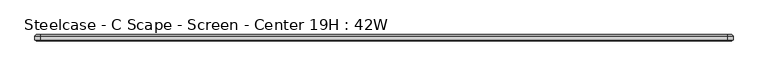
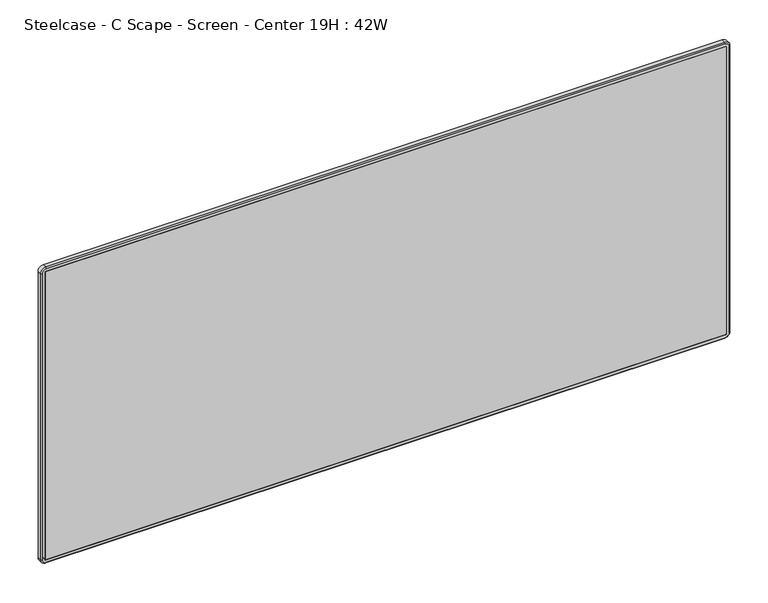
"""IFC4 building model written with IfcOpenShell, lengths in millimetres: furniture geometry, Steelcase - C Scape - Screen - Center 19H : 42W."""

import ifcopenshell
import ifcopenshell.guid

model = None  # the IFC model being written
_history = None  # IfcOwnerHistory: only IFC2X3 demands one
_inside = {}  # id of a spatial element -> (the spatial element, [elements in it])
_under = {}  # id of a project, library or spatial element -> (it, [spatial elements below it])
_declared = {}  # id of a project -> (the project, [libraries it declares])
_typed = {}  # id of a type object -> (the type object, [elements of that type])
_made_of = {}  # id of a material, layer set ... -> (it, [elements and type objects made of it])


def new_model(schema):
    """Start an empty IFC model of exactly this schema.

    Asked for "IFC4X3", IfcOpenShell would pick the latest addendum, in which some entities
    have other attributes; the version numbers below select the first issue.
    IFC2X3 requires an IfcOwnerHistory on every rooted entity: one is made here for all.
    """
    global model, _history
    if schema == "IFC4X3":
        model = ifcopenshell.file(schema_version=(4, 3, 0, 0))
    else:
        model = ifcopenshell.file(schema=schema)
    _inside.clear()
    _under.clear()
    _declared.clear()
    _typed.clear()
    _made_of.clear()
    _history = None
    if model.schema == "IFC2X3":
        org = make("IfcOrganization", Name="unknown")
        user = make(
            "IfcPersonAndOrganization",
            ThePerson=make("IfcPerson", FamilyName="unknown"),
            TheOrganization=org,
        )
        app = make(
            "IfcApplication",
            ApplicationDeveloper=org,
            Version="unknown",
            ApplicationFullName="unknown",
            ApplicationIdentifier="unknown",
        )
        _history = make(
            "IfcOwnerHistory",
            OwningUser=user,
            OwningApplication=app,
            ChangeAction="ADDED",
            CreationDate=0,
        )
    return model


def make(cls, **values):
    """One entity of the class cls with the attributes given. An attribute that is None is left unset."""
    return model.create_entity(
        cls, **{name: value for name, value in values.items() if value is not None}
    )


def rooted(cls, **values):
    """An entity with a GlobalId (a new one), such as an element, a storey or a relation."""
    return make(cls, GlobalId=ifcopenshell.guid.new(), OwnerHistory=_history, **values)


def si_unit(unit_type, name, prefix=None):
    """IfcSIUnit, for example si_unit("LENGTHUNIT", "METRE", prefix="MILLI")."""
    return make("IfcSIUnit", UnitType=unit_type, Prefix=prefix, Name=name)


def assignment(units):
    """IfcUnitAssignment: the units of a project."""
    return None if units is None else make("IfcUnitAssignment", Units=units)


def point(xyz):
    """IfcCartesianPoint."""
    return None if xyz is None else make("IfcCartesianPoint", Coordinates=xyz)


def direction(xyz):
    """IfcDirection."""
    return None if xyz is None else make("IfcDirection", DirectionRatios=xyz)


def frame(location, z_axis=None, x_axis=None):
    """IfcAxis2Placement3D, a coordinate frame: its origin and axes. An axis left out is left unset."""
    return make(
        "IfcAxis2Placement3D",
        Location=point(location),
        Axis=direction(z_axis),
        RefDirection=direction(x_axis),
    )


def origin():
    """The frame at (0, 0, 0) with its axes left unset."""
    return frame((0.0, 0.0, 0.0))


def place(relative_to, where):
    """IfcLocalPlacement: puts the frame where relative to a parent placement (None: the world)."""
    return make(
        "IfcLocalPlacement", PlacementRelTo=relative_to, RelativePlacement=where
    )


def context(
    kind, dimensions, precision=None, world=None, true_north=None, identifier=None
):
    """IfcGeometricRepresentationContext, for example the 3D "Model" context."""
    return make(
        "IfcGeometricRepresentationContext",
        ContextIdentifier=identifier,
        ContextType=kind,
        CoordinateSpaceDimension=dimensions,
        Precision=precision,
        WorldCoordinateSystem=world,
        TrueNorth=true_north,
    )


def project(units=None, contexts=None):
    """IfcProject with its units and contexts."""
    return rooted(
        "IfcProject",
        Name="project",
        RepresentationContexts=contexts,
        UnitsInContext=assignment(units),
    )


def spatial(cls, under=None, at=None, **own):
    """A site, building, storey or space (cls), placed at a placement, below another one or the project."""
    s = rooted(cls, ObjectPlacement=at, **own)
    if under is not None:
        _under.setdefault(under.id(), (under, []))[1].append(s)
    return s


def polyline(points):
    """IfcPolyline through the points."""
    return make("IfcPolyline", Points=[point(p) for p in points])


def circle_curve(where, radius):
    """IfcCircle in the frame where."""
    return make("IfcCircle", Position=where, Radius=radius)


def outline(outer, holes=None, kind="AREA"):
    """IfcArbitraryClosedProfileDef: a profile drawn as a closed curve; with holes, ...WithVoids."""
    if holes is None:
        return make("IfcArbitraryClosedProfileDef", ProfileType=kind, OuterCurve=outer)
    return make(
        "IfcArbitraryProfileDefWithVoids",
        ProfileType=kind,
        OuterCurve=outer,
        InnerCurves=holes,
    )


def extrude(swept, where, along, depth):
    """IfcExtrudedAreaSolid: the profile swept, set in the frame where, extruded along a direction by depth."""
    return make(
        "IfcExtrudedAreaSolid",
        SweptArea=swept,
        Position=where,
        ExtrudedDirection=direction(along),
        Depth=depth,
    )


def shape(context_of_items, identifier, shape_type, items):
    """IfcShapeRepresentation: the items that make up one representation, for example the "Body"."""
    return make(
        "IfcShapeRepresentation",
        ContextOfItems=context_of_items,
        RepresentationIdentifier=identifier,
        RepresentationType=shape_type,
        Items=items,
    )


def source(mapping_origin, context_of_items, identifier, shape_type, items):
    """IfcRepresentationMap: a shape defined once, which mapped items show again and again."""
    return make(
        "IfcRepresentationMap",
        MappingOrigin=mapping_origin,
        MappedRepresentation=shape(context_of_items, identifier, shape_type, items),
    )


def transform(
    local_origin,
    x_axis=None,
    y_axis=None,
    z_axis=None,
    scale=None,
    scale2=None,
    scale3=None,
    uniform=True,
):
    """IfcCartesianTransformationOperator3D, or its non-uniform kind. x_axis, y_axis, z_axis: its Axis1, 2, 3."""
    if uniform:
        return make(
            "IfcCartesianTransformationOperator3D",
            Axis1=direction(x_axis),
            Axis2=direction(y_axis),
            LocalOrigin=point(local_origin),
            Scale=scale,
            Axis3=direction(z_axis),
        )
    return make(
        "IfcCartesianTransformationOperator3DnonUniform",
        Axis1=direction(x_axis),
        Axis2=direction(y_axis),
        LocalOrigin=point(local_origin),
        Scale=scale,
        Axis3=direction(z_axis),
        Scale2=scale2,
        Scale3=scale3,
    )


def mapped(mapping_source, mapping_target):
    """IfcMappedItem: shows the shape of a source again, moved by a transform."""
    return make(
        "IfcMappedItem", MappingSource=mapping_source, MappingTarget=mapping_target
    )


def made_of(thing, what):
    """Note that an element or type object is made of a material, layer set ...; save() writes the relation."""
    if what is not None:
        _made_of.setdefault(what.id(), (what, []))[1].append(thing)
    return thing


def element(
    cls,
    number,
    at=None,
    inside=None,
    cuts=None,
    type_object=None,
    material=None,
    context=None,
    identifier="Body",
    shape_type=None,
    held_by="IfcProductDefinitionShape",
    body=None,
    shapes=None,
    **own,
):
    """One element of the class cls, such as IfcWall. Its Tag is "e" and its number.

    at: its placement. inside: the storey or other place that contains it. cuts: it is an
    opening in that element (IfcRelVoidsElement). A single representation is given by context,
    identifier, shape_type and body (its items); several are given by shapes. held_by: the class
    of the entity that holds the representations. save() writes the other relations.
    """
    e = rooted(cls, Tag="e%d" % number, ObjectPlacement=at, **own)
    if body is not None:
        shapes = [shape(context, identifier, shape_type, body)]
    if shapes is not None:
        e.Representation = make(held_by, Representations=shapes)
    if inside is not None:
        _inside.setdefault(inside.id(), (inside, []))[1].append(e)
    if cuts is not None:
        rooted(
            "IfcRelVoidsElement", RelatingBuildingElement=cuts, RelatedOpeningElement=e
        )
    if type_object is not None:
        _typed.setdefault(type_object.id(), (type_object, []))[1].append(e)
    return made_of(e, material)


def aggregate(whole, parts):
    """IfcRelAggregates: a whole, such as a stair, and the parts it consists of."""
    return rooted("IfcRelAggregates", RelatingObject=whole, RelatedObjects=parts)


def save(model, path):
    """Write the relations noted so far, then the file.

    IfcRelAggregates (storeys below a building ...), IfcRelContainedInSpatialStructure (elements
    in a storey), IfcRelDefinesByType, IfcRelAssociatesMaterial and IfcRelDeclares: one each for
    every whole, place, type object, material and project.
    """
    for whole, parts in _under.values():
        aggregate(whole, parts)
    for where, things in _inside.values():
        rooted(
            "IfcRelContainedInSpatialStructure",
            RelatedElements=things,
            RelatingStructure=where,
        )
    for kind, things in _typed.values():
        rooted("IfcRelDefinesByType", RelatedObjects=things, RelatingType=kind)
    for what, things in _made_of.values():
        rooted("IfcRelAssociatesMaterial", RelatedObjects=things, RelatingMaterial=what)
    for by, libraries in _declared.values():
        rooted("IfcRelDeclares", RelatingContext=by, RelatedDefinitions=libraries)
    model.write(path)


def plane_surface(at):
    """IfcPlane: the flat surface through the origin of the frame at, square to its z axis."""
    return make("IfcPlane", Position=at)


def cylinder_surface(at, radius):
    """IfcCylindricalSurface: all points at the distance radius from the z axis of the frame at."""
    return make("IfcCylindricalSurface", Position=at, Radius=radius)


def revolved_surface(curve, axis_point, axis_direction):
    """IfcSurfaceOfRevolution: the curve turned about the line through axis_point along axis_direction."""
    return make(
        "IfcSurfaceOfRevolution",
        SweptCurve=make("IfcArbitraryOpenProfileDef", ProfileType="CURVE", Curve=curve),
        AxisPosition=make("IfcAxis1Placement", Location=point(axis_point), Axis=direction(axis_direction)),
    )


def advanced_brep(points, edges, surfaces, faces):
    """IfcAdvancedBrep: a solid bounded by faces that lie on surfaces and meet in shared edges.

    An edge is (start, end): straight between two places in points (the first is 0);
    or (start, end, curve); or (start, end, curve, False) where it runs against its curve.
    A face is (place in surfaces, loops), or (place, loops, False) where it looks against
    its surface's normal. A loop lists edges by number (the first is 1), with a minus sign
    where the edge is run from its end to its start. The first loop is the outer one.
    """
    corners = [point(p) for p in points]
    vertices = [make("IfcVertexPoint", VertexGeometry=c) for c in corners]
    made = []
    for start, end, *more in edges:
        made.append(
            make(
                "IfcEdgeCurve",
                EdgeStart=vertices[start],
                EdgeEnd=vertices[end],
                EdgeGeometry=more[0] if more else make("IfcPolyline", Points=[corners[start], corners[end]]),
                SameSense=more[1] if len(more) > 1 else True,
            )
        )
    hull = []
    for where, loops, *sense in faces:
        bounds = []
        for j, loop in enumerate(loops):
            ring = [make("IfcOrientedEdge", EdgeElement=made[abs(k) - 1], Orientation=k > 0) for k in loop]
            bounds.append(
                make(
                    "IfcFaceOuterBound" if j == 0 else "IfcFaceBound",
                    Bound=make("IfcEdgeLoop", EdgeList=ring),
                    Orientation=True,
                )
            )
        hull.append(make("IfcAdvancedFace", Bounds=bounds, FaceSurface=surfaces[where], SameSense=sense[0] if sense else True))
    return make("IfcAdvancedBrep", Outer=make("IfcClosedShell", CfsFaces=hull))


def steelcase_c_scape_screen_center_19h_42w_60bf33ff(model_context):
    return source(origin(), model_context, "Body", "SolidModel", [
        advanced_brep(
        [(6.3501994, -7.9375, 1222.6655677), (8.21859, -7.9375, 1224.5339583), (8.21859, -17.4625, 1224.5339583), (6.3501994, -17.4625, 1222.6655677), (0.0002237, -9.6896209, 1222.6655677), (8.21859, -9.6896209, 1230.8839341), (8.21859, -7.9375, 1229.1318132), (1.7523445, -7.9375, 1222.6655677), (0.0002237, -15.7098203, 1222.6655677), (8.21859, -15.7098203, 1230.8839341), (1.7529034, -17.4625, 1222.6655677), (8.21859, -17.4625, 1229.1312544), (6.3501994, -17.4625, 756.5023005), (6.3501994, -7.9375, 756.5023005), (1.7523445, -7.9375, 756.5023005), (0.0002237, -9.6896209, 756.5023005), (0.0002237, -15.7098203, 756.5023005), (1.7529034, -17.4625, 756.5023005), (8.21859, -7.9375, 754.6339099), (8.21859, -17.4625, 754.6339099), (8.21859, -9.6896209, 748.2839341), (8.21859, -7.9375, 750.036055), (8.21859, -15.7098203, 748.2839341), (8.21859, -17.4625, 750.0366139), (1055.406615, -17.4625, 754.6339099), (1055.406615, -7.9375, 754.6339099), (1055.406615, -7.9375, 750.036055), (1055.406615, -9.6896209, 748.2839341), (1055.406615, -15.7098203, 748.2839341), (1055.406615, -17.4625, 750.0366139), (1057.2750056, -7.9375, 756.5023005), (1057.2750056, -17.4625, 756.5023005), (1063.6249814, -9.6896209, 756.5023005), (1061.8728605, -7.9375, 756.5023005), (1063.6249814, -15.7098203, 756.5023005), (1061.8723017, -17.4625, 756.5023005), (1057.2750056, -17.4625, 1222.6655677), (1057.2750056, -7.9375, 1222.6655677), (1061.8728605, -7.9375, 1222.6655677), (1063.6249814, -9.6896209, 1222.6655677), (1063.6249814, -15.7098203, 1222.6655677), (1061.8723017, -17.4625, 1222.6655677), (1055.406615, -7.9375, 1224.5339583), (1055.406615, -17.4625, 1224.5339583), (1055.406615, -7.9375, 1229.1318132), (1055.406615, -9.6896209, 1230.8839341), (1055.406615, -15.7098203, 1230.8839341), (1055.406615, -17.4625, 1229.1312544)],
        [
            (0, 1, circle_curve(frame((8.21859, -7.9375, 1222.6655677), z_axis=(0.0, 1.0, 0.0), x_axis=(0.0, 0.0, 1.0)), 1.8683906)),
            (1, 2),
            (2, 3, circle_curve(frame((8.21859, -17.4625, 1222.6655677), z_axis=(0.0, -1.0, 0.0), x_axis=(0.0, 0.0, 1.0)), 1.8683906)),
            (3, 0),
            (4, 5, circle_curve(frame((8.21859, -9.6896209, 1222.6655677), z_axis=(0.0, 1.0, 0.0), x_axis=(0.0, 0.0, 1.0)), 8.2183664)),
            (5, 6),
            (6, 7, circle_curve(frame((8.21859, -7.9375, 1222.6655677), z_axis=(0.0, -1.0, 0.0), x_axis=(0.0, 0.0, 1.0)), 6.4662455)),
            (7, 4),
            (8, 9, circle_curve(frame((8.21859, -15.7098203, 1222.6655677), z_axis=(0.0, 1.0, 0.0), x_axis=(0.0, 0.0, 1.0)), 8.2183664)),
            (9, 5),
            (4, 8),
            (10, 11, circle_curve(frame((8.21859, -17.4625, 1222.6655677), z_axis=(0.0, 1.0, 0.0), x_axis=(0.0, 0.0, 1.0)), 6.4656866)),
            (11, 9),
            (8, 10),
            (3, 12),
            (12, 13),
            (13, 0),
            (7, 14),
            (14, 15),
            (15, 4),
            (15, 16),
            (16, 8),
            (16, 17),
            (17, 10),
            (18, 13, circle_curve(frame((8.21859, -7.9375, 756.5023005), z_axis=(0.0, 1.0, 0.0), x_axis=(-1.0, 0.0, 0.0)), 1.8683906)),
            (12, 19, circle_curve(frame((8.21859, -17.4625, 756.5023005), z_axis=(0.0, -1.0, 0.0), x_axis=(-1.0, 0.0, 0.0)), 1.8683906)),
            (19, 18),
            (20, 15, circle_curve(frame((8.21859, -9.6896209, 756.5023005), z_axis=(0.0, 1.0, 0.0), x_axis=(-1.0, 0.0, 0.0)), 8.2183664)),
            (14, 21, circle_curve(frame((8.21859, -7.9375, 756.5023005), z_axis=(0.0, -1.0, 0.0), x_axis=(-1.0, 0.0, 0.0)), 6.4662455)),
            (21, 20),
            (22, 16, circle_curve(frame((8.21859, -15.7098203, 756.5023005), z_axis=(0.0, 1.0, 0.0), x_axis=(-1.0, 0.0, 0.0)), 8.2183664)),
            (20, 22),
            (23, 17, circle_curve(frame((8.21859, -17.4625, 756.5023005), z_axis=(0.0, 1.0, 0.0), x_axis=(-1.0, 0.0, 0.0)), 6.4656866)),
            (22, 23),
            (19, 24),
            (24, 25),
            (25, 18),
            (21, 26),
            (26, 27),
            (27, 20),
            (27, 28),
            (28, 22),
            (28, 29),
            (29, 23),
            (30, 25, circle_curve(frame((1055.406615, -7.9375, 756.5023005), z_axis=(0.0, 1.0, 0.0), x_axis=(0.0, 0.0, -1.0)), 1.8683906)),
            (24, 31, circle_curve(frame((1055.406615, -17.4625, 756.5023005), z_axis=(0.0, -1.0, 0.0), x_axis=(0.0, 0.0, -1.0)), 1.8683906)),
            (31, 30),
            (32, 27, circle_curve(frame((1055.406615, -9.6896209, 756.5023005), z_axis=(0.0, 1.0, 0.0), x_axis=(0.0, 0.0, -1.0)), 8.2183664)),
            (26, 33, circle_curve(frame((1055.406615, -7.9375, 756.5023005), z_axis=(0.0, -1.0, 0.0), x_axis=(0.0, 0.0, -1.0)), 6.4662455)),
            (33, 32),
            (34, 28, circle_curve(frame((1055.406615, -15.7098203, 756.5023005), z_axis=(0.0, 1.0, 0.0), x_axis=(0.0, 0.0, -1.0)), 8.2183664)),
            (32, 34),
            (35, 29, circle_curve(frame((1055.406615, -17.4625, 756.5023005), z_axis=(0.0, 1.0, 0.0), x_axis=(0.0, 0.0, -1.0)), 6.4656866)),
            (34, 35),
            (31, 36),
            (36, 37),
            (37, 30),
            (33, 38),
            (38, 39),
            (39, 32),
            (39, 40),
            (40, 34),
            (40, 41),
            (41, 35),
            (42, 37, circle_curve(frame((1055.406615, -7.9375, 1222.6655677), z_axis=(0.0, 1.0, 0.0), x_axis=(1.0, 0.0, 0.0)), 1.8683906)),
            (36, 43, circle_curve(frame((1055.406615, -17.4625, 1222.6655677), z_axis=(0.0, -1.0, 0.0), x_axis=(1.0, 0.0, 0.0)), 1.8683906)),
            (43, 42),
            (44, 38, circle_curve(frame((1055.406615, -7.9375, 1222.6655677), z_axis=(0.0, 1.0, 0.0), x_axis=(1.0, 0.0, 0.0)), 6.4662455)),
            (6, 44),
            (42, 1),
            (45, 39, circle_curve(frame((1055.406615, -9.6896209, 1222.6655677), z_axis=(0.0, 1.0, 0.0), x_axis=(1.0, 0.0, 0.0)), 8.2183664)),
            (44, 45),
            (46, 40, circle_curve(frame((1055.406615, -15.7098203, 1222.6655677), z_axis=(0.0, 1.0, 0.0), x_axis=(1.0, 0.0, 0.0)), 8.2183664)),
            (45, 46),
            (47, 41, circle_curve(frame((1055.406615, -17.4625, 1222.6655677), z_axis=(0.0, 1.0, 0.0), x_axis=(1.0, 0.0, 0.0)), 6.4656866)),
            (46, 47),
            (47, 11),
            (2, 43),
            (5, 45),
            (9, 46),
        ],
        [
            revolved_surface(polyline([(8.21859, -17.4625, 1224.5339583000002), (8.21859, -7.9375, 1224.5339583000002)]), (8.21859, -7.9375, 1222.6655677), (0.0, -1.0, 0.0)),
            revolved_surface(polyline([(8.21859, -7.9375, 1229.1318132), (8.21859, -9.6896209, 1230.8839341)]), (8.21859, -7.9375, 1222.6655677), (0.0, -1.0, 0.0)),
            cylinder_surface(frame((8.21859, -7.9375, 1222.6655677), z_axis=(0.0, -1.0, 0.0), x_axis=(0.0, 0.0, 1.0)), 8.2183664),
            revolved_surface(polyline([(8.21859, -15.7098203, 1230.8839341), (8.21859, -17.4625, 1229.1312544)]), (8.21859, -7.9375, 1222.6655677), (0.0, -1.0, 0.0)),
            plane_surface(frame((6.3501994, -17.4625, 1222.6655677), z_axis=(1.0, 0.0, 0.0), x_axis=(0.0, 0.0, -1.0))),
            plane_surface(frame((1.7523445, -7.9375, 1222.6655677), z_axis=(-0.707106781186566, 0.707106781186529, 0.0), x_axis=(0.0, 0.0, -1.0))),
            plane_surface(frame((0.0002237, -9.6896209, 1222.6655677), z_axis=(-1.0, 0.0, 0.0), x_axis=(0.0, 0.0, -1.0))),
            plane_surface(frame((0.0002237, -15.7098203, 1222.6655677), z_axis=(-0.7071067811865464, -0.7071067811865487, 0.0), x_axis=(0.0, 0.0, -1.0))),
            revolved_surface(polyline([(6.350199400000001, -17.4625, 756.5023005), (6.350199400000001, -7.9375, 756.5023005)]), (8.21859, -7.9375, 756.5023005), (0.0, -1.0, 0.0)),
            revolved_surface(polyline([(1.7523445, -7.9375, 756.5023005), (0.0002237, -9.6896209, 756.5023005)]), (8.21859, -7.9375, 756.5023005), (0.0, -1.0, 0.0)),
            cylinder_surface(frame((8.21859, -7.9375, 756.5023005), z_axis=(0.0, -1.0, 0.0), x_axis=(-1.0, 0.0, 0.0)), 8.2183664),
            revolved_surface(polyline([(0.0002237, -15.7098203, 756.5023005), (1.7529034, -17.4625, 756.5023005)]), (8.21859, -7.9375, 756.5023005), (0.0, -1.0, 0.0)),
            plane_surface(frame((8.21859, -17.4625, 754.6339099), z_axis=(0.0, 0.0, 1.0), x_axis=(1.0, 0.0, 0.0))),
            plane_surface(frame((8.21859, -7.9375, 750.036055), z_axis=(0.0, 0.7071067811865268, -0.7071067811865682), x_axis=(1.0, 0.0, 0.0))),
            plane_surface(frame((8.21859, -9.6896209, 748.2839341), z_axis=(0.0, 0.0, -1.0), x_axis=(1.0, 0.0, 0.0))),
            plane_surface(frame((8.21859, -15.7098203, 748.2839341), z_axis=(0.0, -0.7071067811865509, -0.7071067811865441), x_axis=(1.0, 0.0, 0.0))),
            revolved_surface(polyline([(1055.406615, -17.4625, 754.6339099), (1055.406615, -7.9375, 754.6339099)]), (1055.406615, -7.9375, 756.5023005), (0.0, -1.0, 0.0)),
            revolved_surface(polyline([(1055.406615, -7.9375, 750.036055), (1055.406615, -9.6896209, 748.2839341)]), (1055.406615, -7.9375, 756.5023005), (0.0, -1.0, 0.0)),
            cylinder_surface(frame((1055.406615, -7.9375, 756.5023005), z_axis=(0.0, -1.0, 0.0), x_axis=(0.0, 0.0, -1.0)), 8.2183664),
            revolved_surface(polyline([(1055.406615, -15.7098203, 748.2839341), (1055.406615, -17.4625, 750.0366139)]), (1055.406615, -7.9375, 756.5023005), (0.0, -1.0, 0.0)),
            plane_surface(frame((1057.2750056, -17.4625, 756.5023005), z_axis=(-1.0, 0.0, 0.0), x_axis=(0.0, 0.0, 1.0))),
            plane_surface(frame((1061.8728605, -7.9375, 756.5023005), z_axis=(0.7071067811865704, 0.7071067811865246, 0.0), x_axis=(0.0, 0.0, 1.0))),
            plane_surface(frame((1063.6249814, -9.6896209, 756.5023005), z_axis=(1.0, 0.0, 0.0), x_axis=(0.0, 0.0, 1.0))),
            plane_surface(frame((1063.6249814, -15.7098203, 756.5023005), z_axis=(0.7071067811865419, -0.7071067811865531, 0.0), x_axis=(0.0, 0.0, 1.0))),
            revolved_surface(polyline([(1057.2750056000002, -17.4625, 1222.6655677), (1057.2750056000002, -7.9375, 1222.6655677)]), (1055.406615, -7.9375, 1222.6655677), (0.0, -1.0, 0.0)),
            plane_surface(frame((1055.406615, -7.9375, 1222.6655677), z_axis=(0.0, 1.0, 0.0), x_axis=(1.0, 0.0, 0.0))),
            revolved_surface(polyline([(1061.8728605, -7.9375, 1222.6655677), (1063.6249814, -9.6896209, 1222.6655677)]), (1055.406615, -7.9375, 1222.6655677), (0.0, -1.0, 0.0)),
            cylinder_surface(frame((1055.406615, -7.9375, 1222.6655677), z_axis=(0.0, -1.0, 0.0), x_axis=(1.0, 0.0, 0.0)), 8.2183664),
            revolved_surface(polyline([(1063.6249814, -15.7098203, 1222.6655677), (1061.8723017, -17.4625, 1222.6655677)]), (1055.406615, -7.9375, 1222.6655677), (0.0, -1.0, 0.0)),
            plane_surface(frame((1055.406615, -17.4625, 1222.6655677), z_axis=(0.0, -1.0, 0.0), x_axis=(1.0, 0.0, 0.0))),
            plane_surface(frame((1055.406615, -17.4625, 1224.5339583), z_axis=(0.0, 0.0, -1.0), x_axis=(-1.0, 0.0, 0.0))),
            plane_surface(frame((1055.406615, -7.9375, 1229.1318132), z_axis=(0.0, 0.7071067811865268, 0.7071067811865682), x_axis=(-1.0, 0.0, 0.0))),
            plane_surface(frame((1055.406615, -9.6896209, 1230.8839341), z_axis=(0.0, 0.0, 1.0), x_axis=(-1.0, 0.0, 0.0))),
            plane_surface(frame((1055.406615, -15.7098203, 1230.8839341), z_axis=(0.0, -0.7071067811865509, 0.7071067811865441), x_axis=(-1.0, 0.0, 0.0))),
        ],
        [
            (0, [[1, 2, 3, 4]]),
            (1, [[5, 6, 7, 8]]),
            (2, [[9, 10, -5, 11]]),
            (3, [[12, 13, -9, 14]]),
            (4, [[-4, 15, 16, 17]]),
            (5, [[-8, 18, 19, 20]]),
            (6, [[-11, -20, 21, 22]]),
            (7, [[-14, -22, 23, 24]]),
            (8, [[25, -16, 26, 27]]),
            (9, [[28, -19, 29, 30]]),
            (10, [[31, -21, -28, 32]]),
            (11, [[33, -23, -31, 34]]),
            (12, [[-27, 35, 36, 37]]),
            (13, [[-30, 38, 39, 40]]),
            (14, [[-32, -40, 41, 42]]),
            (15, [[-34, -42, 43, 44]]),
            (16, [[45, -36, 46, 47]]),
            (17, [[48, -39, 49, 50]]),
            (18, [[51, -41, -48, 52]]),
            (19, [[53, -43, -51, 54]]),
            (20, [[-47, 55, 56, 57]]),
            (21, [[-50, 58, 59, 60]]),
            (22, [[-52, -60, 61, 62]]),
            (23, [[-54, -62, 63, 64]]),
            (24, [[65, -56, 66, 67]]),
            (25, [[68, -58, -49, -38, -29, -18, -7, 69], [-37, -45, -57, -65, 70, -1, -17, -25]]),
            (26, [[71, -59, -68, 72]]),
            (27, [[73, -61, -71, 74]]),
            (28, [[75, -63, -73, 76]]),
            (29, [[-44, -53, -64, -75, 77, -12, -24, -33], [-66, -55, -46, -35, -26, -15, -3, 78]]),
            (30, [[-67, -78, -2, -70]]),
            (31, [[-72, -69, -6, 79]]),
            (32, [[-74, -79, -10, 80]]),
            (33, [[-76, -80, -13, -77]]),
        ],
    ),
        extrude(outline(polyline([(1057.2750056, -7.9375), (1057.2750056, -17.4625), (6.3501994, -17.4625), (6.3501994, -7.9375), (1057.2750056, -7.9375)])), frame((0.0, 0.0, 754.6339099), z_axis=(0.0, 0.0, 1.0), x_axis=(1.0, 0.0, 0.0)), (0.0, 0.0, 1.0), 469.9000484),
    ])


if __name__ == "__main__":
    model = new_model("IFC4")
    model_context = context("Model", 3, world=origin())
    ifc_project = project(units=[si_unit("LENGTHUNIT", "METRE", prefix="MILLI")], contexts=[model_context])
    site = spatial("IfcSite", under=ifc_project)
    building = spatial("IfcBuilding", under=site)
    placement = place(None, origin())
    steelcase_c_scape_screen_center_19h_42w_shape = steelcase_c_scape_screen_center_19h_42w_60bf33ff(model_context)
    element("IfcFurniture", 1, ObjectType="Steelcase - C Scape - Screen - Center 19H : 42W", at=placement, inside=building, context=model_context, shape_type="MappedRepresentation", body=[
        mapped(steelcase_c_scape_screen_center_19h_42w_shape, transform((0.0, 0.0, 0.0), x_axis=(1.0, 0.0, 0.0), y_axis=(0.0, 1.0, 0.0), z_axis=(0.0, 0.0, 1.0))),
    ])
    save(model, "model.ifc")
